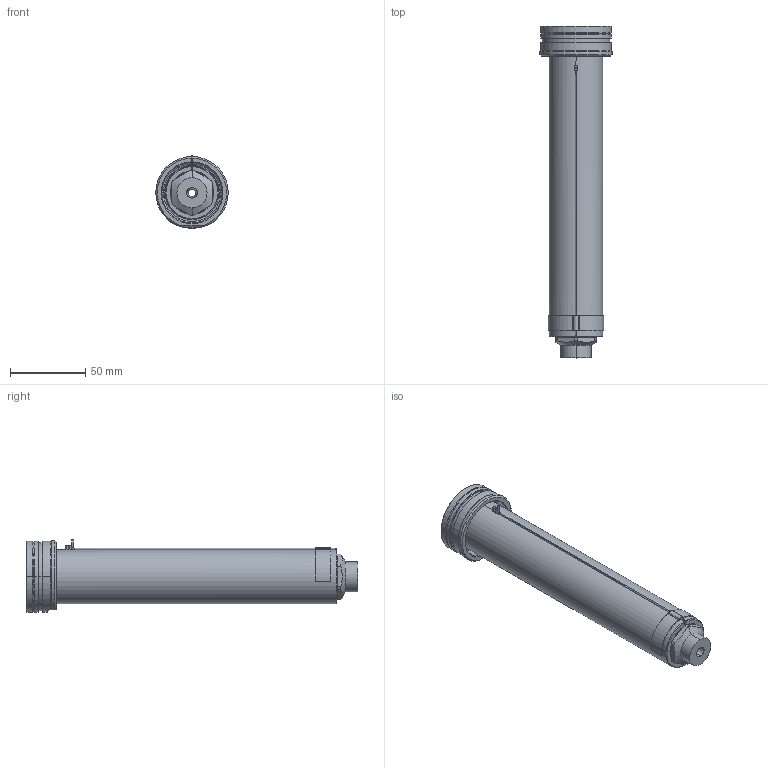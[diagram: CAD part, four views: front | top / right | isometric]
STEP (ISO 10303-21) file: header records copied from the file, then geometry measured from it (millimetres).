
FILE_DESCRIPTION((''),'2;1');
FILE_NAME('EO16_VG-ST_STD_200_SW','2024-02-19T12:55:59',('sundharh'),(''),'CREO PARAMETRIC BY PTC INC, 2023154','CREO PARAMETRIC BY PTC INC, 2023154','');
FILE_SCHEMA(('CONFIG_CONTROL_DESIGN'));
Length unit declared in the file: millimetre
Products named in the file (1): EO16_VG-ST_STD_200_SW
Bounding box: 47.97 x 220 x 48 mm (x, y, z)
Volume: 180411.4 mm3; surface area: 43105 mm2
Topology: 1 solids, 1 shells, 168 faces, 418 edges, 255 vertices
Faces by surface type: cylinder 64, plane 44, cone 35, torus 14, bspline 9, sphere 2
Entity records: 5825 total; most frequent: CARTESIAN_POINT 1761, DIRECTION 900, ORIENTED_EDGE 820, EDGE_CURVE 410, AXIS2_PLACEMENT_3D 371, VERTEX_POINT 255, CIRCLE 212, EDGE_LOOP 183
